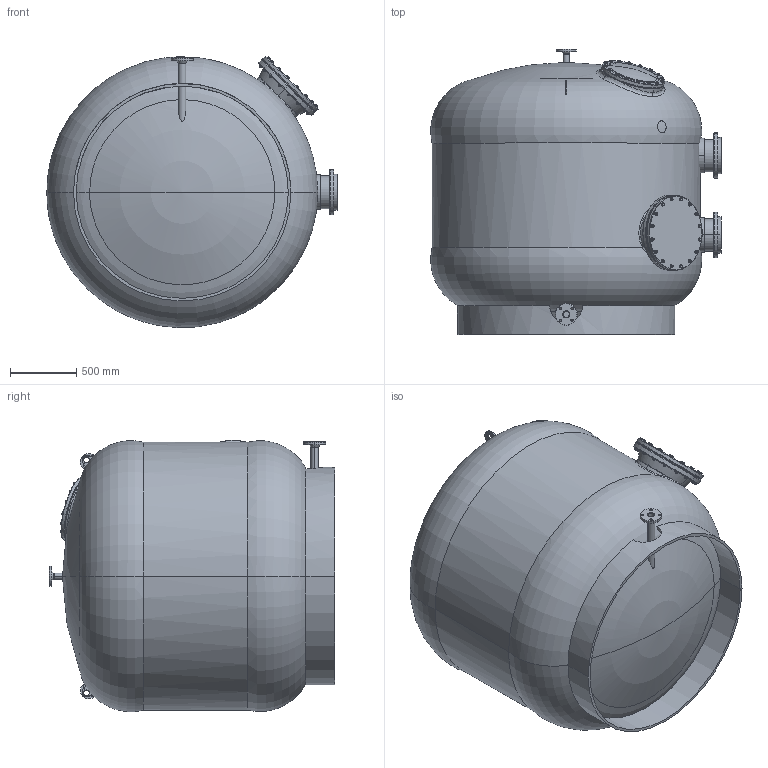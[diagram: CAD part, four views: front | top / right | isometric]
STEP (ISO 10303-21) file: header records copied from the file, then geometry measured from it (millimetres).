
FILE_DESCRIPTION (( 'STEP AP214' ), '1' );
FILE_NAME ('adriatic200c_sb1000_big.STEP', '2020-11-04T13:03:06', ( '' ), ( '' ), 'SwSTEP 2.0', 'SolidWorks 2019', '' );
FILE_SCHEMA (( 'AUTOMOTIVE_DESIGN' ));
Length unit declared in the file: millimetre
Products named in the file (1): adriatic200c_sb1000_big
Bounding box: 2188.82 x 2150.03 x 2044.73 mm (x, y, z)
Surface area: 36666861.6 mm2 (no closed solid volume)
Topology: 0 solids, 129 shells, 1916 faces, 4278 edges, 2619 vertices
Faces by surface type: cylinder 626, cone 591, plane 576, torus 98, bspline 17, sphere 8
Entity records: 107121 total; most frequent: CARTESIAN_POINT 43572, ORIENTED_EDGE 8408, DIRECTION 8358, EDGE_CURVE 4236, AXIS2_PLACEMENT_3D 3604, VERTEX_POINT 2617, EDGE_LOOP 2317, UNCERTAINTY_MEASURE_WITH_UNIT 2031
